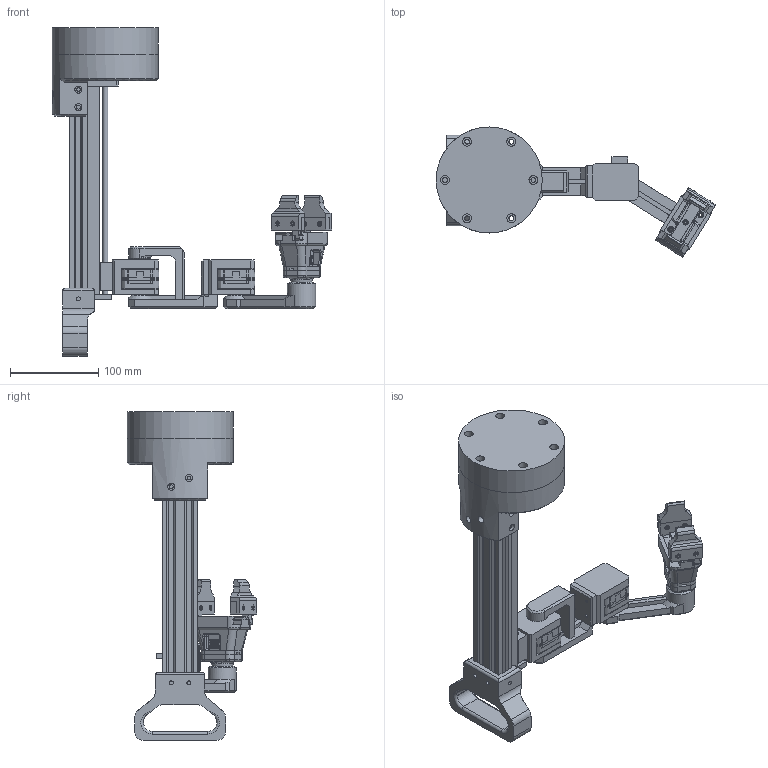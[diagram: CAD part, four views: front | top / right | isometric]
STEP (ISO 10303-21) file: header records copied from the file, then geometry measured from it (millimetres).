
FILE_DESCRIPTION(/* description */ (''),/* implementation_level */ '2;1');
FILE_NAME(/* name */ 'Assieme_scara_05.stp',/* time_stamp */ '2025-11-24T10:51:57+01:00',/* author */ ('Ryzen5700u'),/* organization */ (''),/* preprocessor_version */ 'ST-DEVELOPER v20',/* originating_system */ 'Autodesk Inventor 2025',/* authorisation */ '');
FILE_SCHEMA (('AUTOMOTIVE_DESIGN { 1 0 10303 214 3 1 1 }'));
Products named in the file (53): Assieme_scara_02; base1; blocco_motore1; AS 1420 - 1973 - M4 x 30; tslot 2040; Assieme_profilato; profilato; profilato_cuscinetto; profilato_motore; Nema11; 00144585; 00144585_01; 00144585_02; 00144585_03; 00144585_04; 00144585_05; 00144585_06; 00144585_07; 00144585_08; 00144585_09; 00144585_10; 00144585_11; 00144585_12; 00144585_13; 00144585_14; Actuator_MGN9; AS 1420 - 1973 - M3 x 6; Actuator_MGN9C; Carriage; AS 1420 - 1973 - M3 x 12; maniglia; disco_120; gripper; gripper_rail_base; gripper_finger; gripper_base_plate; MG90S_assieme_disco_ldb2; MG90_ldb; scritta_MG90s; MG90S 9g Micro Servo Medium Horn 12 holes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
Assembly tree (71 placements, depth 4):
  Assieme_scara_02
    base1
    blocco_motore1
    AS 1420 - 1973 - M4 x 30  x4
    tslot 2040
    Assieme_profilato
      profilato
      profilato_cuscinetto
      profilato_motore
      Nema11
      00144585
        00144585_01
        00144585_02
        00144585_03
        00144585_04
        00144585_05
        00144585_06
        00144585_07
        00144585_08
        00144585_09
        00144585_10
        00144585_11
        00144585_12
        00144585_13
        00144585_14
      Actuator_MGN9
      AS 1420 - 1973 - M3 x 6  x4
      Actuator_MGN9C
      Carriage
      AS 1420 - 1973 - M3 x 12  x4
    maniglia
    disco_120
    gripper
      gripper_rail_base
      gripper_finger  x2
      gripper_base_plate
      MG90S_assieme_disco_ldb2
        MG90_ldb
        scritta_MG90s  x2
      MG90S 9g Micro Servo Medium Horn 12 holes
      blocco_giunto_polso
      gripper_spur_gear v2
      dito1  x2
      AS 1420 - 1973 - M3 x 10  x5
      BS 4168 - M2,5 x 10
      AS 1427 - M2 x 12
    nema17  x2
    braccio_nema17
    blocco_motore2
    braccio_2_nema17
    %3% BS 290 - SKF 618/8
    blocco_braccio_01
    Vite a testa cilindrica incassata esalobulare ISO 14580 - M2,5x12-4.8  x3
Bounding box: 316.46 x 146.91 x 372 mm (x, y, z)
Volume: 1310758 mm3; surface area: 413627.2 mm2
Topology: 75 solids, 79 shells, 3115 faces, 8655 edges, 5852 vertices
Faces by surface type: plane 1837, cylinder 854, cone 140, torus 118, bspline 102, sphere 64
Full cylindrical faces by diameter (mm): 1.03 x6, 1.167 x3, 1.2 x2, 1.5 x2, 1.6 x2, 1.755 x1, 2 x3, 2.05 x4, 2.2 x1, 2.3 x4, 2.4 x8, 2.459 x6, 2.47 x1, 2.5 x23, 2.7 x6, 2.8 x4, 2.9 x12, 3 x15, 3.2 x52, 3.242 x4, 3.4 x12, 3.5 x13, 4 x5, 4.3 x6, 4.5 x5, 4.69 x1, 4.8 x1, 5 x8, 5.1 x2, 5.3 x6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
Entity records: 128734 total; most frequent: CARTESIAN_POINT 62688, ORIENTED_EDGE 13304, DIRECTION 12765, EDGE_CURVE 6652, VERTEX_POINT 4497, AXIS2_PLACEMENT_3D 4293, LINE 4179, VECTOR 4179
